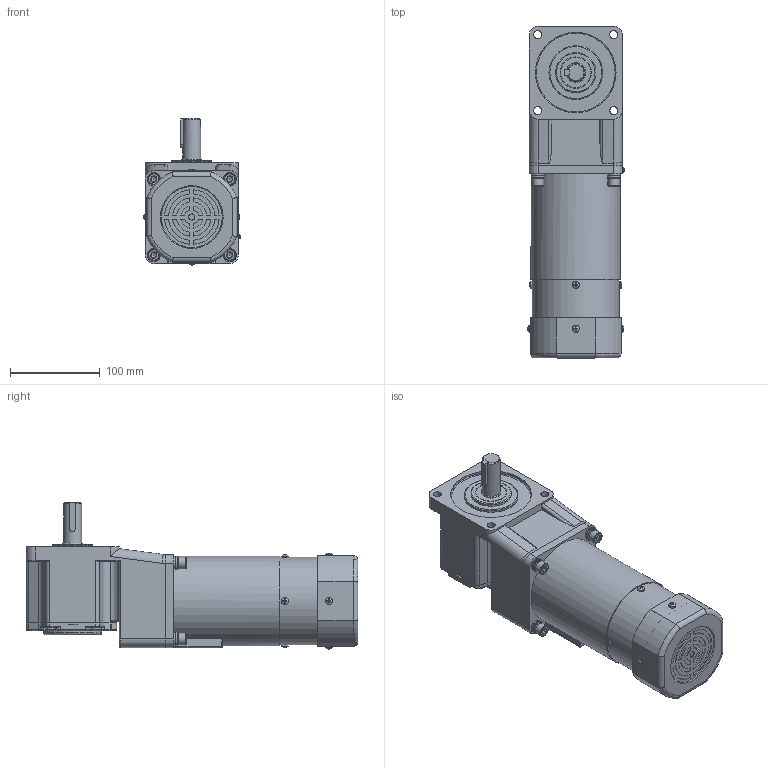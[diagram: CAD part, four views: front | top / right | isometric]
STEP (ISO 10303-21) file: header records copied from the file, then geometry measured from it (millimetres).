
FILE_DESCRIPTION(/* description */ (''),/* implementation_level */ '2;1');
FILE_NAME(/* name */ '100+直角中实-刹车调速风叶-140W.stp',/* time_stamp */ '2022-11-01T13:51:58+08:00',/* author */ (''),/* organization */ (''),/* preprocessor_version */ 'ST-DEVELOPER v16.7',/* originating_system */ 'SIEMENS PLM Software NX 1899',/* authorisation */ '');
FILE_SCHEMA (('AP203_CONFIGURATION_CONTROLLED_3D_DESIGN_OF_MECHANICAL_PARTS_AND_ASSEMBLIES_MIM_LF { 1 0 10303 403 2 1 2}'));
Length unit declared in the file: millimetre
Products named in the file (1): yf1854BC0762nkas
Bounding box: 107.66 x 370.5 x 163.08 mm (x, y, z)
Volume: 3202169.2 mm3; surface area: 229328.6 mm2
Topology: 15 solids, 15 shells, 825 faces, 1998 edges, 1260 vertices
Faces by surface type: plane 492, cylinder 223, torus 54, cone 43, bspline 9, sphere 4
Full cylindrical faces by diameter (mm): 4 x4, 4.8 x1, 6 x8, 6.8 x4, 7 x1, 7.76 x4, 8 x8, 8.4 x4, 9 x8, 9.5 x4, 13 x4, 14 x4, 15 x4, 20 x1, 22 x1, 35 x1, 45 x1, 60 x1, 65 x1, 77 x1, 90 x1, 97.5 x1, 98 x2, 100 x1
Entity records: 25327 total; most frequent: CARTESIAN_POINT 5352, DIRECTION 3950, ORIENTED_EDGE 3642, EDGE_CURVE 1821, AXIS2_PLACEMENT_3D 1487, VERTEX_POINT 1207, EDGE_LOOP 1030, LINE 976
